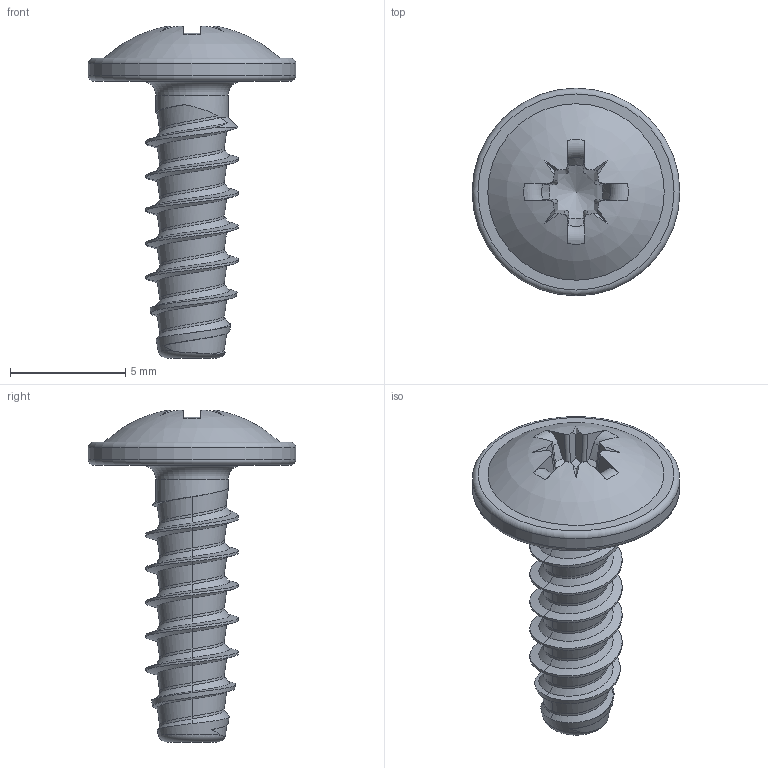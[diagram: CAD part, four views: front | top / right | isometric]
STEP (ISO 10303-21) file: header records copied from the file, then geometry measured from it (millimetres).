
FILE_DESCRIPTION(/* description */ (''),/* implementation_level */ '2;1');
FILE_NAME(/* name */ 'KN6031-STSplus-40x12-Z2.step',/* time_stamp */ '2017-10-09T16:46:45+02:00',/* author */ (''),/* organization */ (''),/* preprocessor_version */ 'ST-DEVELOPER v16',/* originating_system */ 'SIEMENS PLM Software NX 10.0',/* authorisation */ '');
FILE_SCHEMA (('AUTOMOTIVE_DESIGN { 1 0 10303 214 3 1 1 1 }'));
Length unit declared in the file: millimetre
Products named in the file (1): KN6031-STSplus-40x12-Z2
Bounding box: 9 x 9 x 14.39 mm (x, y, z)
Volume: 182.5 mm3; surface area: 327.4 mm2
Topology: 1 solids, 1 shells, 93 faces, 237 edges, 147 vertices
Faces by surface type: bspline 39, plane 27, cylinder 11, torus 8, cone 7, sphere 1
Full cylindrical faces by diameter (mm): 3.13 x1, 9 x1
Entity records: 5077 total; most frequent: CARTESIAN_POINT 3180, ORIENTED_EDGE 446, DIRECTION 273, EDGE_CURVE 223, VERTEX_POINT 142, B_SPLINE_CURVE_WITH_KNOTS 108, AXIS2_PLACEMENT_3D 103, EDGE_LOOP 102
